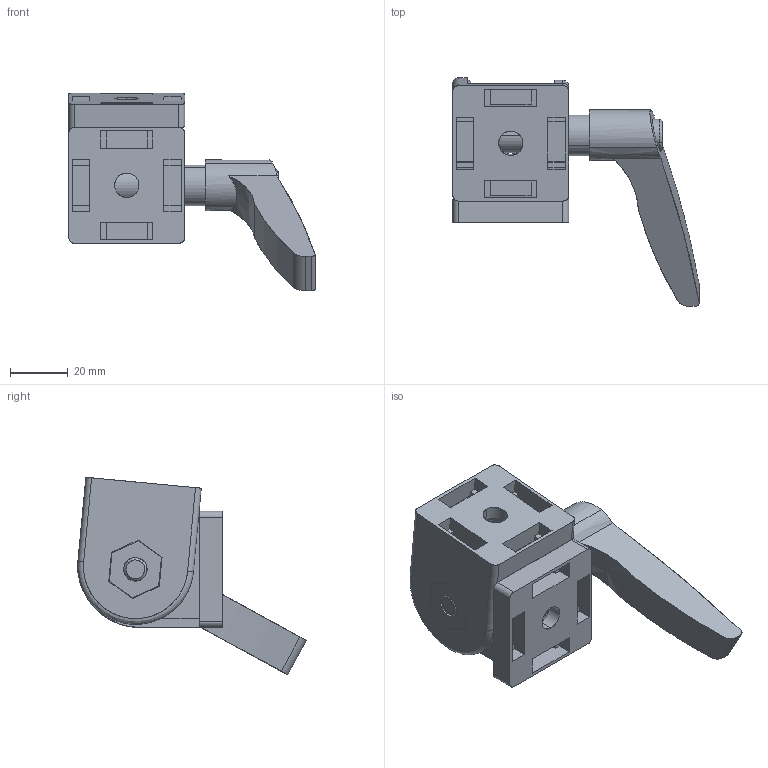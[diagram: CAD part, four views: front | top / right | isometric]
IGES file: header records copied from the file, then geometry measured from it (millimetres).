
Start section: SolidWorks IGES file using analytic representation for surfaces
Global section: file name: D:\LETROMEC CATALOGUE\SWIVEL JOINT\CP-SJ40X40H\CP-SJ40X40H.IGS; native system: SolidWorks 2013; preprocessor: SolidWorks 2013; author: User; date: 180316.203304; units: millimetre
Bounding box: 85 x 78.88 x 68.1 mm (x, y, z)
Surface area: 34371.7 mm2 (no closed solid volume)
Topology: 0 solids, 0 shells, 228 faces, 2606 edges, 2606 vertices
Faces by surface type: bspline 167, revolution 61
